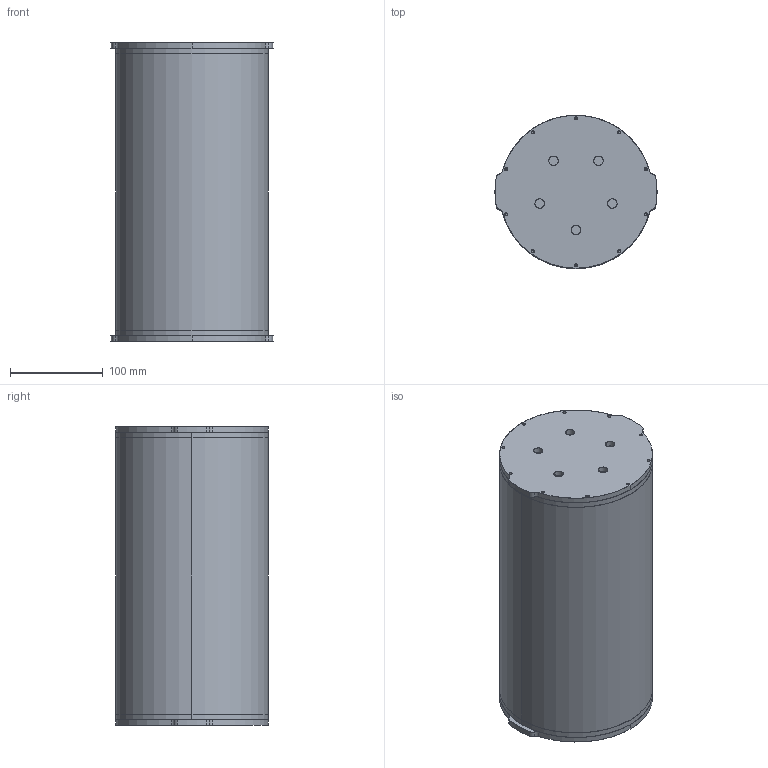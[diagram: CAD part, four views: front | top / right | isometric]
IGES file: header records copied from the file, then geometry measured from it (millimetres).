
Start section: SolidWorks IGES file using analytic representation for surfaces
Global section: file name: C:\Users\Jonathan\Dropbox\BR-Engineering\Models\WTE6-X1A-PUBLIC\IGS STEP STL\ASSEM-WTE6-R1.IGS; native system: SolidWorks 2014; preprocessor: SolidWorks 2014; author: Jonathan; date: 170301.095620; units: inch
Bounding box: 175.1 x 165.1 x 322.45 mm (x, y, z)
Surface area: 514005.9 mm2 (no closed solid volume)
Topology: 0 solids, 0 shells, 326 faces, 5664 edges, 5648 vertices
Faces by surface type: revolution 292, bspline 34
